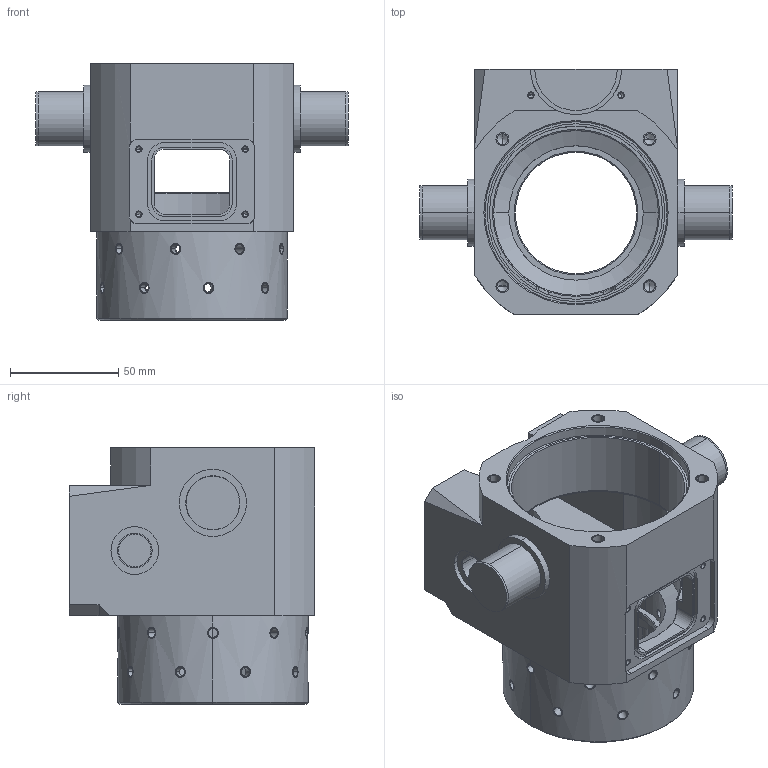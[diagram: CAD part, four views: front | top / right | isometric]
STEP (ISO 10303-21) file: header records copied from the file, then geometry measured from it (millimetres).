
FILE_DESCRIPTION((''),'2;1');
FILE_NAME('NV005A_0308_42_TOPBOX2','2025-10-08T',('sfc-lishengjun'),(''),'PRO/ENGINEER BY PARAMETRIC TECHNOLOGY CORPORATION, 2014310','PRO/ENGINEER BY PARAMETRIC TECHNOLOGY CORPORATION, 2014310','');
FILE_SCHEMA(('CONFIG_CONTROL_DESIGN'));
Length unit declared in the file: millimetre
Products named in the file (1): NV005A_0308_42_TOPBOX2
Bounding box: 144 x 113.25 x 118.5 mm (x, y, z)
Volume: 393780.4 mm3; surface area: 109234.2 mm2
Topology: 1 solids, 35 shells, 344 faces, 1024 edges, 704 vertices
Faces by surface type: cylinder 192, plane 101, cone 45, bspline 4, sphere 2
Entity records: 12819 total; most frequent: CARTESIAN_POINT 3735, DIRECTION 1854, ORIENTED_EDGE 1762, EDGE_CURVE 996, AXIS2_PLACEMENT_3D 731, VERTEX_POINT 704, EDGE_LOOP 438, VECTOR 392
